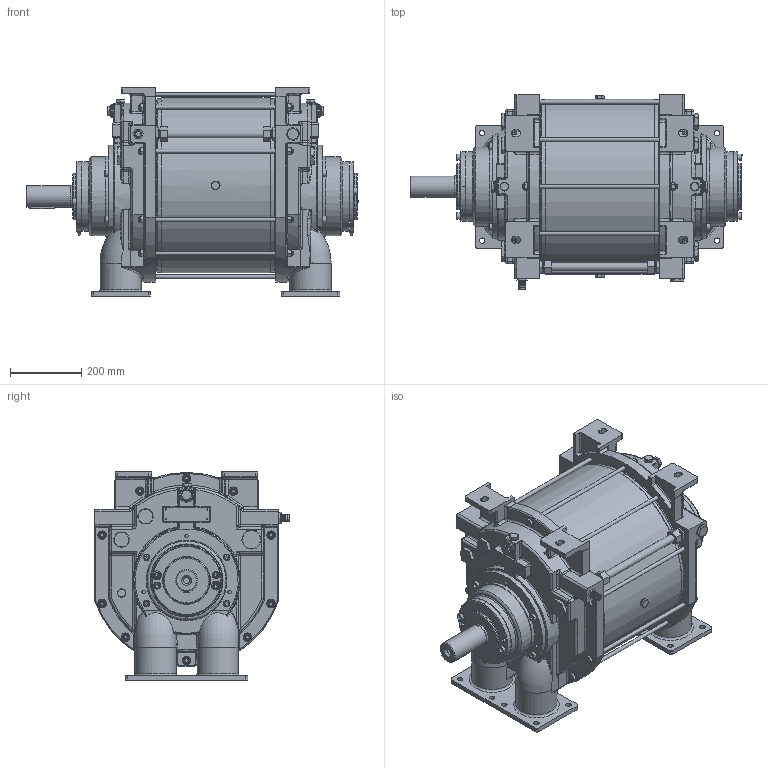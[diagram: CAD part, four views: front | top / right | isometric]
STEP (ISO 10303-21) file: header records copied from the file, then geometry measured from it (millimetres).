
FILE_DESCRIPTION(/* description */ ('','CAx-IF Rec.Pracs.---Representation and Presentation of Product Manufacturing Information (PMI)---4.0---2014-10-13'),/* implementation_level */ '2;1');
FILE_NAME(/* name */ 'E:\WorkSpace\Designs\1700\1700048.stp',/* time_stamp */ '2022-08-01T15:21:36+02:00',/* author */ ('JJ'),/* organization */ (''),/* preprocessor_version */ 'ST-DEVELOPER v18.1',/* originating_system */ 'Autodesk Inventor 2022',/* authorisation */ '');
FILE_SCHEMA (('AP242_MANAGED_MODEL_BASED_3D_ENGINEERING_MIM_LF { 1 0 10303 442 1 1 4 }'));
Products named in the file (1): 1700048
Bounding box: 932.5 x 545.5 x 585 mm (x, y, z)
Volume: 119182165.5 mm3; surface area: 2359580.2 mm2
Topology: 1 solids, 1 shells, 2019 faces, 4790 edges, 2919 vertices
Faces by surface type: plane 749, cylinder 640, cone 225, torus 191, bspline 142, sphere 72
Full cylindrical faces by diameter (mm): 3.3 x8, 8 x2, 10.106 x6, 10.75 x10, 12 x44, 13 x24, 15 x17, 17.294 x1, 18 x16, 19.847 x1, 19.984 x1, 20 x7, 21.8 x6, 22 x1, 23.8 x6, 24 x20, 24.5 x4, 26 x2, 27 x2, 28.58 x2, 30 x2, 31.8 x3, 34.93 x1, 35 x2, 39.8 x4, 42.8 x4, 49.8 x2, 52.38 x2, 60 x1, 62 x1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
Entity records: 66895 total; most frequent: CARTESIAN_POINT 19991, ORIENTED_EDGE 9434, DIRECTION 9332, EDGE_CURVE 4717, AXIS2_PLACEMENT_3D 3788, VERTEX_POINT 2919, EDGE_LOOP 2324, FACE_OUTER_BOUND 2019
